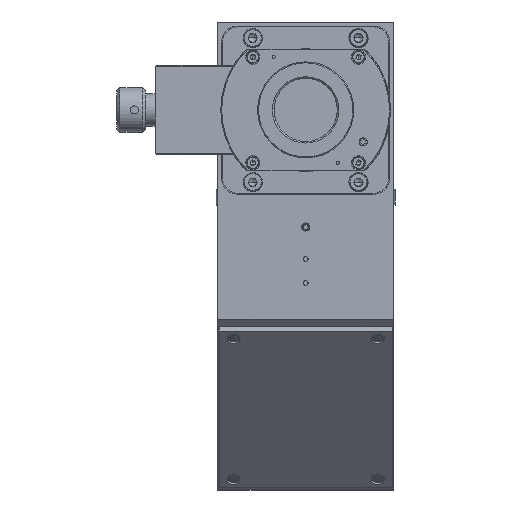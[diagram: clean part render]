
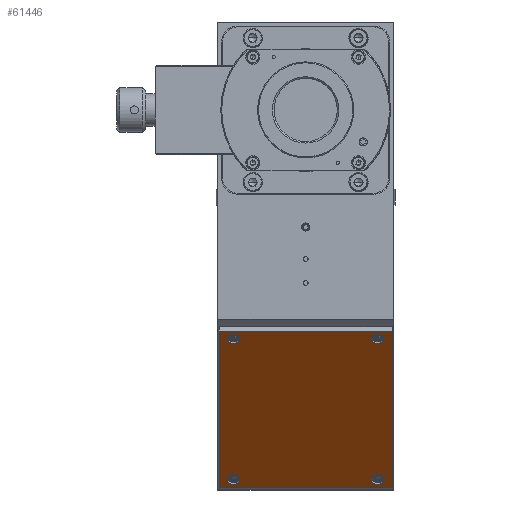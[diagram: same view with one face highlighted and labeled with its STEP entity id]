
A CAD part, top view. The second image highlights one B-rep face of the part: STEP entity #61446.
In plain terms, the highlighted planar face has unit normal (0, -0.707, 0.707).
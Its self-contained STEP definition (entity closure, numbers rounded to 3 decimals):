
#3157 = VERTEX_POINT ( 'NONE', #96310 ) ;
#5937 = CARTESIAN_POINT ( 'NONE',  ( 27., -69.003, -47.931 ) ) ;
#7413 = EDGE_CURVE ( 'NONE', #91309, #64508, #52606, .T. ) ;
#8545 = VECTOR ( 'NONE', #140219, 1000. ) ;
#8774 = LINE ( 'NONE', #112870, #17103 ) ;
#9065 = CARTESIAN_POINT ( 'NONE',  ( -27., -117.793, -96.722 ) ) ;
#11735 = EDGE_CURVE ( 'NONE', #3157, #91309, #8774, .T. ) ;
#12344 = AXIS2_PLACEMENT_3D ( 'NONE', #126237, #185626, #37695 ) ;
#13674 = DIRECTION ( 'NONE',  ( 0., -0.707, 0.707 ) ) ;
#14780 = ORIENTED_EDGE ( 'NONE', *, *, #57468, .F. ) ;
#15066 = CARTESIAN_POINT ( 'NONE',  ( 20.5, -115.318, -94.247 ) ) ;
#15390 = ORIENTED_EDGE ( 'NONE', *, *, #34763, .F. ) ;
#15741 = CARTESIAN_POINT ( 'NONE',  ( 22.5, -115.318, -94.247 ) ) ;
#17103 = VECTOR ( 'NONE', #127466, 1000. ) ;
#22483 = AXIS2_PLACEMENT_3D ( 'NONE', #188796, #119573, #121495 ) ;
#23876 = ORIENTED_EDGE ( 'NONE', *, *, #11735, .T. ) ;
#24995 = VERTEX_POINT ( 'NONE', #138154 ) ;
#25116 = CARTESIAN_POINT ( 'NONE',  ( -22.5, -115.318, -94.247 ) ) ;
#27880 = CARTESIAN_POINT ( 'NONE',  ( -24.5, -71.477, -50.406 ) ) ;
#28391 = EDGE_LOOP ( 'NONE', ( #114027, #94565 ) ) ;
#30443 = DIRECTION ( 'NONE',  ( 0., -0.707, 0.707 ) ) ;
#31405 = CARTESIAN_POINT ( 'NONE',  ( -20.5, -71.477, -50.406 ) ) ;
#31983 = VERTEX_POINT ( 'NONE', #106170 ) ;
#32154 = PLANE ( 'NONE',  #169297 ) ;
#32967 = EDGE_LOOP ( 'NONE', ( #14780, #82377 ) ) ;
#34763 = EDGE_CURVE ( 'NONE', #163512, #46576, #83462, .T. ) ;
#35248 = ORIENTED_EDGE ( 'NONE', *, *, #182403, .F. ) ;
#35948 = DIRECTION ( 'NONE',  ( 0., -0.707, 0.707 ) ) ;
#37695 = DIRECTION ( 'NONE',  ( 1., 0., 0. ) ) ;
#38309 = CARTESIAN_POINT ( 'NONE',  ( 22.5, -71.477, -50.406 ) ) ;
#42922 = FACE_OUTER_BOUND ( 'NONE', #49142, .T. ) ;
#44466 = EDGE_LOOP ( 'NONE', ( #159866, #15390 ) ) ;
#45447 = VECTOR ( 'NONE', #130302, 1000. ) ;
#46576 = VERTEX_POINT ( 'NONE', #31405 ) ;
#48298 = AXIS2_PLACEMENT_3D ( 'NONE', #49605, #35948, #184810 ) ;
#49142 = EDGE_LOOP ( 'NONE', ( #23876, #96488, #81246, #152148 ) ) ;
#49605 = CARTESIAN_POINT ( 'NONE',  ( -22.5, -115.318, -94.247 ) ) ;
#50719 = LINE ( 'NONE', #5937, #8545 ) ;
#52606 = LINE ( 'NONE', #127492, #156319 ) ;
#53726 = CARTESIAN_POINT ( 'NONE',  ( 27., -117.793, -96.722 ) ) ;
#57468 = EDGE_CURVE ( 'NONE', #167139, #180265, #151982, .T. ) ;
#59369 = EDGE_CURVE ( 'NONE', #81899, #31983, #69387, .T. ) ;
#61446 = ADVANCED_FACE ( 'NONE', ( #90547, #165482, #149901, #147016, #42922 ), #32154, .T. ) ;
#64508 = VERTEX_POINT ( 'NONE', #53726 ) ;
#67125 = LINE ( 'NONE', #70949, #45447 ) ;
#69387 = CIRCLE ( 'NONE', #125244, 2. ) ;
#70949 = CARTESIAN_POINT ( 'NONE',  ( -27., -69.003, -47.931 ) ) ;
#76150 = CARTESIAN_POINT ( 'NONE',  ( -22.5, -71.477, -50.406 ) ) ;
#78118 = CARTESIAN_POINT ( 'NONE',  ( -24.5, -115.318, -94.247 ) ) ;
#79996 = EDGE_CURVE ( 'NONE', #180265, #167139, #101078, .T. ) ;
#80686 = CIRCLE ( 'NONE', #12344, 2. ) ;
#81246 = ORIENTED_EDGE ( 'NONE', *, *, #83156, .T. ) ;
#81899 = VERTEX_POINT ( 'NONE', #15066 ) ;
#82377 = ORIENTED_EDGE ( 'NONE', *, *, #79996, .F. ) ;
#83156 = EDGE_CURVE ( 'NONE', #64508, #180883, #50719, .T. ) ;
#83462 = CIRCLE ( 'NONE', #105149, 2. ) ;
#83491 = DIRECTION ( 'NONE',  ( 0., -0.707, 0.707 ) ) ;
#87789 = DIRECTION ( 'NONE',  ( 0., -0.707, 0.707 ) ) ;
#90547 = FACE_BOUND ( 'NONE', #32967, .T. ) ;
#91095 = CARTESIAN_POINT ( 'NONE',  ( 20.5, -71.477, -50.406 ) ) ;
#91309 = VERTEX_POINT ( 'NONE', #9065 ) ;
#91497 = CARTESIAN_POINT ( 'NONE',  ( 0., -93.398, -72.327 ) ) ;
#93067 = VERTEX_POINT ( 'NONE', #91095 ) ;
#94565 = ORIENTED_EDGE ( 'NONE', *, *, #59369, .F. ) ;
#96310 = CARTESIAN_POINT ( 'NONE',  ( -27., -69.003, -47.931 ) ) ;
#96488 = ORIENTED_EDGE ( 'NONE', *, *, #7413, .T. ) ;
#97649 = DIRECTION ( 'NONE',  ( 1., 0., 0. ) ) ;
#101078 = CIRCLE ( 'NONE', #48298, 2. ) ;
#105149 = AXIS2_PLACEMENT_3D ( 'NONE', #76150, #30443, #149134 ) ;
#105424 = AXIS2_PLACEMENT_3D ( 'NONE', #25116, #83491, #142849 ) ;
#106170 = CARTESIAN_POINT ( 'NONE',  ( 24.5, -115.318, -94.247 ) ) ;
#112870 = CARTESIAN_POINT ( 'NONE',  ( -27., -69.003, -47.931 ) ) ;
#114027 = ORIENTED_EDGE ( 'NONE', *, *, #120362, .F. ) ;
#118281 = EDGE_CURVE ( 'NONE', #46576, #163512, #137504, .T. ) ;
#119573 = DIRECTION ( 'NONE',  ( 0., -0.707, 0.707 ) ) ;
#120362 = EDGE_CURVE ( 'NONE', #31983, #81899, #128156, .T. ) ;
#121495 = DIRECTION ( 'NONE',  ( 1., 0., 0. ) ) ;
#125244 = AXIS2_PLACEMENT_3D ( 'NONE', #129527, #188963, #133133 ) ;
#126237 = CARTESIAN_POINT ( 'NONE',  ( 22.5, -71.477, -50.406 ) ) ;
#127466 = DIRECTION ( 'NONE',  ( 0., -0.707, -0.707 ) ) ;
#127492 = CARTESIAN_POINT ( 'NONE',  ( -27., -117.793, -96.722 ) ) ;
#128156 = CIRCLE ( 'NONE', #153068, 2. ) ;
#129527 = CARTESIAN_POINT ( 'NONE',  ( 22.5, -115.318, -94.247 ) ) ;
#130302 = DIRECTION ( 'NONE',  ( -1., 0., 0. ) ) ;
#133133 = DIRECTION ( 'NONE',  ( 1., 0., 0. ) ) ;
#137504 = CIRCLE ( 'NONE', #22483, 2. ) ;
#138154 = CARTESIAN_POINT ( 'NONE',  ( 24.5, -71.477, -50.406 ) ) ;
#140219 = DIRECTION ( 'NONE',  ( 0., 0.707, 0.707 ) ) ;
#140247 = EDGE_CURVE ( 'NONE', #180883, #3157, #67125, .T. ) ;
#141131 = DIRECTION ( 'NONE',  ( 1., 0., 0. ) ) ;
#141337 = CIRCLE ( 'NONE', #175550, 2. ) ;
#142849 = DIRECTION ( 'NONE',  ( 1., 0., 0. ) ) ;
#145307 = EDGE_CURVE ( 'NONE', #93067, #24995, #80686, .T. ) ;
#147016 = FACE_BOUND ( 'NONE', #44466, .T. ) ;
#149134 = DIRECTION ( 'NONE',  ( 1., 0., 0. ) ) ;
#149901 = FACE_BOUND ( 'NONE', #184437, .T. ) ;
#151982 = CIRCLE ( 'NONE', #105424, 2. ) ;
#152148 = ORIENTED_EDGE ( 'NONE', *, *, #140247, .T. ) ;
#153068 = AXIS2_PLACEMENT_3D ( 'NONE', #15741, #87789, #176402 ) ;
#153758 = CARTESIAN_POINT ( 'NONE',  ( 27., -69.003, -47.931 ) ) ;
#154181 = DIRECTION ( 'NONE',  ( 0., -0.707, 0.707 ) ) ;
#155079 = CARTESIAN_POINT ( 'NONE',  ( -20.5, -115.318, -94.247 ) ) ;
#156319 = VECTOR ( 'NONE', #141131, 1000. ) ;
#159866 = ORIENTED_EDGE ( 'NONE', *, *, #118281, .F. ) ;
#163512 = VERTEX_POINT ( 'NONE', #27880 ) ;
#165482 = FACE_BOUND ( 'NONE', #28391, .T. ) ;
#167139 = VERTEX_POINT ( 'NONE', #155079 ) ;
#169297 = AXIS2_PLACEMENT_3D ( 'NONE', #91497, #13674, #177222 ) ;
#175550 = AXIS2_PLACEMENT_3D ( 'NONE', #38309, #154181, #97649 ) ;
#176307 = ORIENTED_EDGE ( 'NONE', *, *, #145307, .F. ) ;
#176402 = DIRECTION ( 'NONE',  ( 1., 0., 0. ) ) ;
#177222 = DIRECTION ( 'NONE',  ( -1., 0., 0. ) ) ;
#180265 = VERTEX_POINT ( 'NONE', #78118 ) ;
#180883 = VERTEX_POINT ( 'NONE', #153758 ) ;
#182403 = EDGE_CURVE ( 'NONE', #24995, #93067, #141337, .T. ) ;
#184437 = EDGE_LOOP ( 'NONE', ( #35248, #176307 ) ) ;
#184810 = DIRECTION ( 'NONE',  ( 1., 0., 0. ) ) ;
#185626 = DIRECTION ( 'NONE',  ( 0., -0.707, 0.707 ) ) ;
#188796 = CARTESIAN_POINT ( 'NONE',  ( -22.5, -71.477, -50.406 ) ) ;
#188963 = DIRECTION ( 'NONE',  ( 0., -0.707, 0.707 ) ) ;
